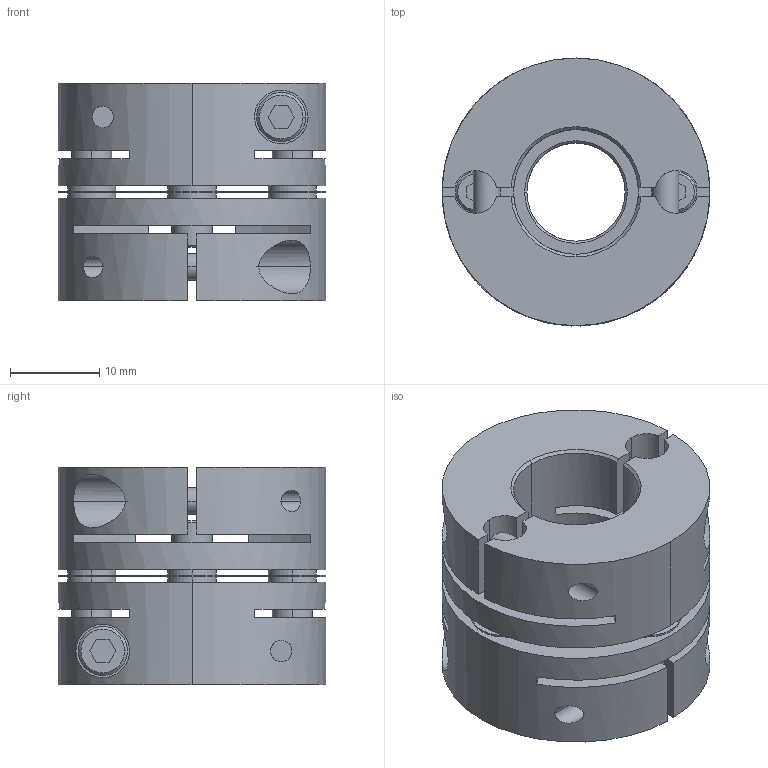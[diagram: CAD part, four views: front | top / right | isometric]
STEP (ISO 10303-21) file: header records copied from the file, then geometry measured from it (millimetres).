
FILE_DESCRIPTION((''),'2;1');
FILE_NAME('LAS-30C-11×14.stp','2011-08-10T13:21:14',(''),(''),'AutoCAD STEP 2000i','AutoCAD 2000i',', , ');
FILE_SCHEMA(('CONFIG_CONTROL_DESIGN'));
Length unit declared in the file: millimetre
Products named in the file (7): LAS-30C-10×10; 忣兜1; LA-3002-D10-1; LA-3002-D10; LA-3002-D06-1; LA-3002-D06; LAS30-ITA
Assembly tree (6 placements, depth 2):
  LAS-30C-10×10
    忣兜1
    LA-3002-D10-1
    LA-3002-D10
    LA-3002-D06-1
    LA-3002-D06
    LAS30-ITA
Bounding box: 30 x 30 x 24.4 mm (x, y, z)
Volume: 11790.2 mm3; surface area: 8910.5 mm2
Topology: 1 solids, 1 shells, 244 faces, 648 edges, 424 vertices
Faces by surface type: plane 112, cylinder 104, cone 28
Entity records: 8527 total; most frequent: CARTESIAN_POINT 2123, DIRECTION 1330, ORIENTED_EDGE 1296, EDGE_CURVE 648, AXIS2_PLACEMENT_3D 487, VERTEX_POINT 424, VECTOR 356, LINE 356
